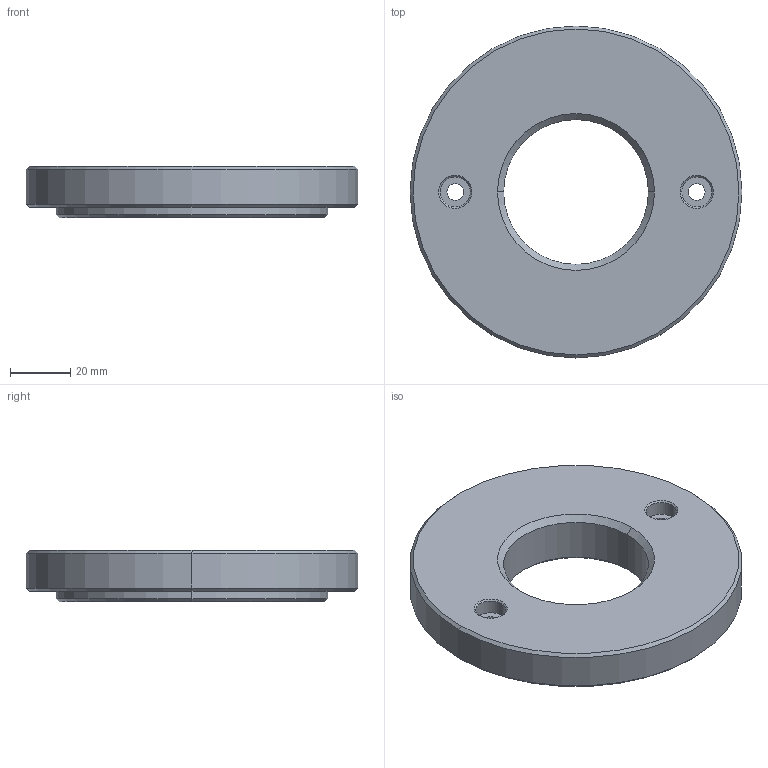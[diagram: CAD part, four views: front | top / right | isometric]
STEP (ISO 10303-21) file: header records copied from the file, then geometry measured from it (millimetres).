
FILE_DESCRIPTION (( 'STEP AP203' ), '1' );
FILE_NAME ('043 rondelle de centrage.STEP', '2021-10-27T18:31:15', ( '' ), ( '' ), 'SwSTEP 2.0', 'SolidWorks 2019', '' );
FILE_SCHEMA (( 'CONFIG_CONTROL_DESIGN' ));
Length unit declared in the file: millimetre
Products named in the file (1): 043 rondelle de centrage
Bounding box: 110 x 110 x 17 mm (x, y, z)
Volume: 117542.5 mm3; surface area: 23394.8 mm2
Topology: 1 solids, 1 shells, 33 faces, 70 edges, 42 vertices
Faces by surface type: cone 14, cylinder 14, plane 5
Entity records: 983 total; most frequent: DIRECTION 180, CARTESIAN_POINT 146, ORIENTED_EDGE 140, AXIS2_PLACEMENT_3D 76, EDGE_CURVE 70, EDGE_LOOP 42, CIRCLE 42, VERTEX_POINT 42
